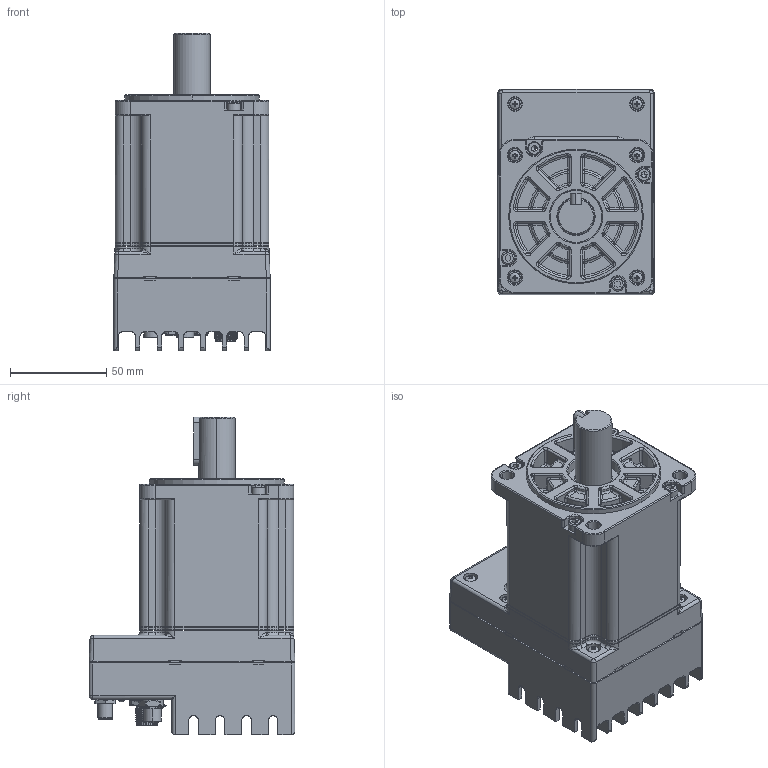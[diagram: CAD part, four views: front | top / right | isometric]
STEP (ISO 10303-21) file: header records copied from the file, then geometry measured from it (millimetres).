
FILE_DESCRIPTION (( 'STEP AP214' ), '1' );
FILE_NAME ('IM1-80MX3X5XX20000.STEP', '2024-02-15T13:36:26', ( '' ), ( '' ), 'SwSTEP 2.0', 'SolidWorks 2020', '' );
FILE_SCHEMA (( 'AUTOMOTIVE_DESIGN' ));
Length unit declared in the file: millimetre
Products named in the file (1): IM1-80MX3X5XX20000
Bounding box: 81.3 x 107 x 165.25 mm (x, y, z)
Surface area: 79949.7 mm2 (no closed solid volume)
Topology: 0 solids, 81 shells, 1435 faces, 5341 edges, 3918 vertices
Faces by surface type: plane 538, cylinder 512, cone 143, torus 134, bspline 57, sphere 51
Full cylindrical faces by diameter (mm): 0.5 x12, 1.5 x4, 1.6 x1, 5.6 x2, 7 x4, 7.5 x6, 9.9 x1, 10 x2, 10.7 x2, 13.5 x2, 18 x1
Entity records: 82221 total; most frequent: CARTESIAN_POINT 22663, DIRECTION 9031, ORIENTED_EDGE 8880, EDGE_CURVE 5197, VERTEX_POINT 3899, AXIS2_PLACEMENT_3D 3413, VECTOR 2205, LINE 2205
